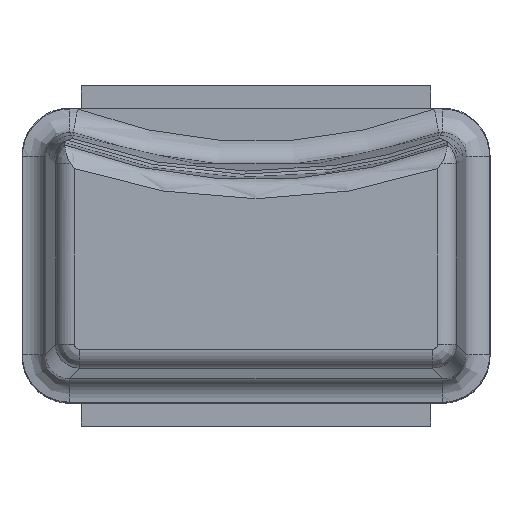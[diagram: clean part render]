
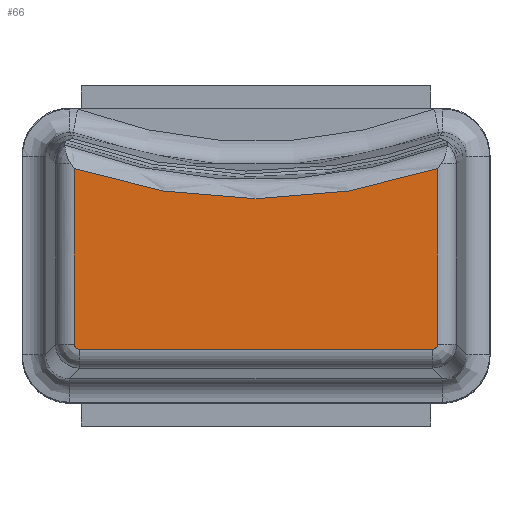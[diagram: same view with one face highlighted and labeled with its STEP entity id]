
A CAD part, top view. The second image highlights one B-rep face of the part: STEP entity #66.
In plain terms, the highlighted planar face has unit normal (0, 0, 1).
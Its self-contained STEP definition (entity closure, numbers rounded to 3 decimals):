
#66=ADVANCED_FACE('',(#738),#740,.T.);
#738=FACE_BOUND('',#739,.T.);
#739=EDGE_LOOP('',(#1842,#1843,#1844,#1845,#1846,#1847));
#740=PLANE('',#741);
#741=AXIS2_PLACEMENT_3D('',#742,#743,#744);
#742=CARTESIAN_POINT('',(0.,0.,207.1));
#743=DIRECTION('',(0.,0.,1.));
#744=DIRECTION('',(-1.,0.,0.));
#1842=ORIENTED_EDGE('',*,*,#2148,.T.);
#1843=ORIENTED_EDGE('',*,*,#2149,.T.);
#1844=ORIENTED_EDGE('',*,*,#2150,.F.);
#1845=ORIENTED_EDGE('',*,*,#2151,.T.);
#1846=ORIENTED_EDGE('',*,*,#2152,.F.);
#1847=ORIENTED_EDGE('',*,*,#2153,.T.);
#2148=EDGE_CURVE('',#2317,#2318,#2319,.F.);
#2149=EDGE_CURVE('',#2318,#2320,#2321,.T.);
#2150=EDGE_CURVE('',#2322,#2320,#2323,.F.);
#2151=EDGE_CURVE('',#2322,#2324,#2325,.T.);
#2152=EDGE_CURVE('',#2326,#2324,#2327,.F.);
#2153=EDGE_CURVE('',#2326,#2317,#2328,.T.);
#2317=VERTEX_POINT('',#2832);
#2318=VERTEX_POINT('',#2833);
#2319=CIRCLE('',#2834,119.173);
#2320=VERTEX_POINT('',#2838);
#2321=LINE('',#2839,#2840);
#2322=VERTEX_POINT('',#2842);
#2323=(BOUNDED_CURVE()B_SPLINE_CURVE(3,
(#2843,#2844,#2845,#2846),
.UNSPECIFIED.,.F.,.F.)B_SPLINE_CURVE_WITH_KNOTS((4,4),
(0.,1.),
.UNSPECIFIED.)CURVE()GEOMETRIC_REPRESENTATION_ITEM()RATIONAL_B_SPLINE_CURVE((1.,
0.805,0.805,1.))REPRESENTATION_ITEM(''));
#2324=VERTEX_POINT('',#2847);
#2325=LINE('',#2848,#2849);
#2326=VERTEX_POINT('',#2851);
#2327=(BOUNDED_CURVE()B_SPLINE_CURVE(3,
(#2852,#2853,#2854,#2855),
.UNSPECIFIED.,.F.,.F.)B_SPLINE_CURVE_WITH_KNOTS((4,4),
(0.,1.),
.UNSPECIFIED.)CURVE()GEOMETRIC_REPRESENTATION_ITEM()RATIONAL_B_SPLINE_CURVE((1.,
0.805,0.805,1.))REPRESENTATION_ITEM(''));
#2328=LINE('',#2856,#2857);
#2832=CARTESIAN_POINT('',(38.407,49.285,207.1));
#2833=CARTESIAN_POINT('',(-38.407,49.285,207.1));
#2834=AXIS2_PLACEMENT_3D('',#2835,#2836,#2837);
#2835=CARTESIAN_POINT('',(0.,162.1,207.1));
#2836=DIRECTION('',(0.,0.,1.));
#2837=DIRECTION('',(-0.322,-0.947,0.));
#2838=CARTESIAN_POINT('',(-38.407,12.093,207.1));
#2839=CARTESIAN_POINT('',(-38.407,49.285,207.1));
#2840=VECTOR('',#2841,1.);
#2841=DIRECTION('',(0.,-1.,0.));
#2842=CARTESIAN_POINT('',(-37.407,11.093,207.1));
#2843=CARTESIAN_POINT('',(-38.407,12.093,207.1));
#2844=CARTESIAN_POINT('',(-38.407,11.508,207.1));
#2845=CARTESIAN_POINT('',(-37.992,11.093,207.1));
#2846=CARTESIAN_POINT('',(-37.407,11.093,207.1));
#2847=CARTESIAN_POINT('',(37.407,11.093,207.1));
#2848=CARTESIAN_POINT('',(-37.407,11.093,207.1));
#2849=VECTOR('',#2850,1.);
#2850=DIRECTION('',(1.,0.,0.));
#2851=CARTESIAN_POINT('',(38.407,12.093,207.1));
#2852=CARTESIAN_POINT('',(37.407,11.093,207.1));
#2853=CARTESIAN_POINT('',(37.992,11.093,207.1));
#2854=CARTESIAN_POINT('',(38.407,11.508,207.1));
#2855=CARTESIAN_POINT('',(38.407,12.093,207.1));
#2856=CARTESIAN_POINT('',(38.407,12.093,207.1));
#2857=VECTOR('',#2858,1.);
#2858=DIRECTION('',(0.,1.,0.));
